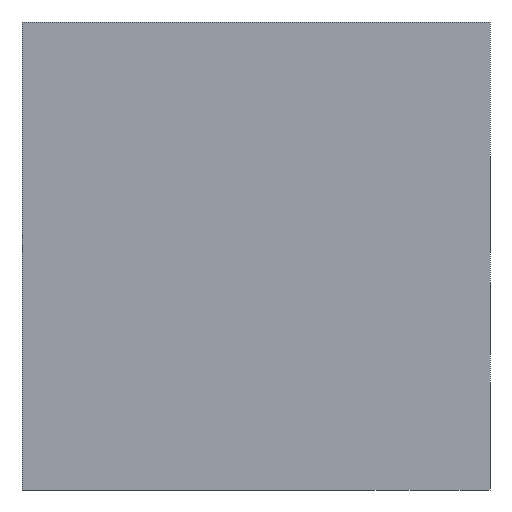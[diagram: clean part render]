
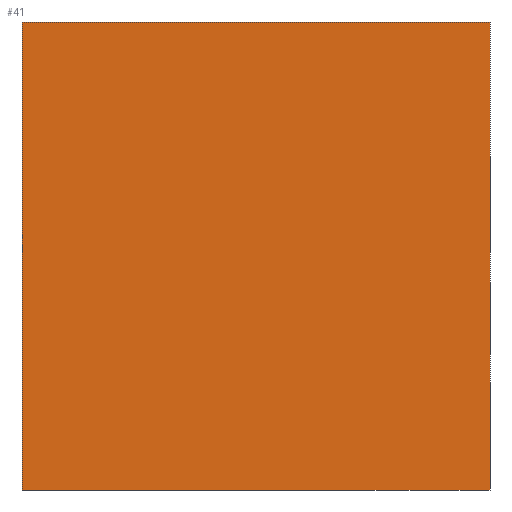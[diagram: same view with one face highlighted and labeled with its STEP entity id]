
A CAD part, left-side view. The second image highlights one B-rep face of the part: STEP entity #41.
In plain terms, the highlighted planar face has unit normal (-1, 0, 0).
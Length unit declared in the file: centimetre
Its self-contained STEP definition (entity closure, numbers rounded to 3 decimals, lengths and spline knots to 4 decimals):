
#41 = ADVANCED_FACE ( 'NONE', ( #289 ), #506, .F. ) ;
#45 = VECTOR ( 'NONE', #435, 100. ) ;
#91 = DIRECTION ( 'NONE',  ( 0., -1., 0. ) ) ;
#169 = ORIENTED_EDGE ( 'NONE', *, *, #1369, .F. ) ;
#216 = CARTESIAN_POINT ( 'NONE',  ( 0., 1000., 1000. ) ) ;
#218 = VERTEX_POINT ( 'NONE', #439 ) ;
#258 = EDGE_CURVE ( 'NONE', #218, #423, #661, .T. ) ;
#289 = FACE_OUTER_BOUND ( 'NONE', #431, .T. ) ;
#291 = VERTEX_POINT ( 'NONE', #1230 ) ;
#301 = EDGE_CURVE ( 'NONE', #1051, #423, #1219, .T. ) ;
#323 = CARTESIAN_POINT ( 'NONE',  ( 0., 0., 1000. ) ) ;
#372 = VECTOR ( 'NONE', #414, 100. ) ;
#414 = DIRECTION ( 'NONE',  ( 0., -1., 0. ) ) ;
#423 = VERTEX_POINT ( 'NONE', #1263 ) ;
#431 = EDGE_LOOP ( 'NONE', ( #924, #788, #169, #562 ) ) ;
#435 = DIRECTION ( 'NONE',  ( 0., 0., -1. ) ) ;
#439 = CARTESIAN_POINT ( 'NONE',  ( 0., 1000., 0. ) ) ;
#506 = PLANE ( 'NONE',  #1003 ) ;
#524 = DIRECTION ( 'NONE',  ( 0., 0., -1. ) ) ;
#550 = CARTESIAN_POINT ( 'NONE',  ( 0., 1000., 0. ) ) ;
#562 = ORIENTED_EDGE ( 'NONE', *, *, #1195, .T. ) ;
#569 = CARTESIAN_POINT ( 'NONE',  ( 0., 0., 1000. ) ) ;
#615 = VECTOR ( 'NONE', #91, 100. ) ;
#661 = LINE ( 'NONE', #550, #615 ) ;
#745 = CARTESIAN_POINT ( 'NONE',  ( 0., 1000., 1000. ) ) ;
#746 = DIRECTION ( 'NONE',  ( 1., 0., 0. ) ) ;
#775 = LINE ( 'NONE', #216, #1201 ) ;
#788 = ORIENTED_EDGE ( 'NONE', *, *, #301, .F. ) ;
#850 = CARTESIAN_POINT ( 'NONE',  ( 0., 1000., 1000. ) ) ;
#924 = ORIENTED_EDGE ( 'NONE', *, *, #258, .T. ) ;
#978 = LINE ( 'NONE', #745, #372 ) ;
#1003 = AXIS2_PLACEMENT_3D ( 'NONE', #850, #746, #524 ) ;
#1051 = VERTEX_POINT ( 'NONE', #323 ) ;
#1195 = EDGE_CURVE ( 'NONE', #291, #218, #775, .T. ) ;
#1201 = VECTOR ( 'NONE', #1445, 100. ) ;
#1219 = LINE ( 'NONE', #569, #45 ) ;
#1230 = CARTESIAN_POINT ( 'NONE',  ( 0., 1000., 1000. ) ) ;
#1263 = CARTESIAN_POINT ( 'NONE',  ( 0., 0., 0. ) ) ;
#1369 = EDGE_CURVE ( 'NONE', #291, #1051, #978, .T. ) ;
#1445 = DIRECTION ( 'NONE',  ( 0., 0., -1. ) ) ;
